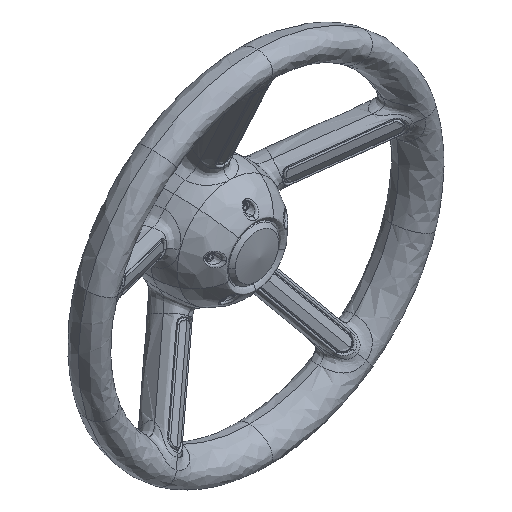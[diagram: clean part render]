
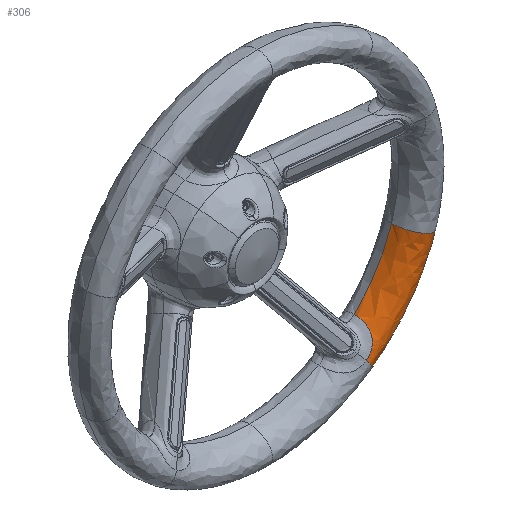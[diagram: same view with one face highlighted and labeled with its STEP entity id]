
A CAD part, isometric view. The second image highlights one B-rep face of the part: STEP entity #306.
In plain terms, the highlighted free-form (B-spline) face has degree [2, 2] with [3, 7] control points.
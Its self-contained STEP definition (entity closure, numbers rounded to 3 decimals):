
#306=ADVANCED_FACE($,(#747),#5556,.T.);
#747=FACE_OUTER_BOUND($,#1189,.T.);
#1189=EDGE_LOOP($,(#2203,#2204,#2205,#2206,#2207));
#2203=ORIENTED_EDGE($,*,*,#4012,.T.);
#2204=ORIENTED_EDGE($,*,*,#3981,.T.);
#2205=ORIENTED_EDGE($,*,*,#4005,.F.);
#2206=ORIENTED_EDGE($,*,*,#4011,.T.);
#2207=ORIENTED_EDGE($,*,*,#3852,.F.);
#3852=EDGE_CURVE($,#4894,#4895,#6378,.T.);
#3981=EDGE_CURVE($,#4973,#4967,#5914,.T.);
#4005=EDGE_CURVE($,#4980,#4967,#6490,.T.);
#4011=EDGE_CURVE($,#4980,#4895,#5922,.T.);
#4012=EDGE_CURVE($,#4894,#4973,#5923,.T.);
#4894=VERTEX_POINT($,#25518);
#4895=VERTEX_POINT($,#25519);
#4967=VERTEX_POINT($,#25591);
#4973=VERTEX_POINT($,#25597);
#4980=VERTEX_POINT($,#25604);
#5556=(
BOUNDED_SURFACE()
B_SPLINE_SURFACE(2,2,((#19467,#19468,#19469,#19470,#19471,#19472,#19473),
(#19474,#19475,#19476,#19477,#19478,#19479,#19480),(#19481,#19482,#19483,
#19484,#19485,#19486,#19487)),.UNSPECIFIED.,.F.,.F.,.F.)
B_SPLINE_SURFACE_WITH_KNOTS((3,3),(3,2,2,3),(0.,1.257),(4.239,
4.712,6.283,7.381),.UNSPECIFIED.)
GEOMETRIC_REPRESENTATION_ITEM()
RATIONAL_B_SPLINE_SURFACE(((0.877,0.912,1.,0.707,
1.,0.795,0.877),(0.834,0.867,
0.951,0.672,0.951,0.756,
0.834),(0.877,0.912,1.,0.707,
1.,0.795,0.877)))
REPRESENTATION_ITEM($)
SURFACE()
);
#5914=(
BOUNDED_CURVE()
B_SPLINE_CURVE(2,(#13610,#13611,#13612,#13613,#13614),.UNSPECIFIED.,.F.,
.F.)
B_SPLINE_CURVE_WITH_KNOTS((3,2,3),(-7.381,-6.283,-5.641),
.UNSPECIFIED.)
CURVE()
GEOMETRIC_REPRESENTATION_ITEM()
RATIONAL_B_SPLINE_CURVE((1.,0.849,1.,0.95,1.))
REPRESENTATION_ITEM($)
);
#5922=(
BOUNDED_CURVE()
B_SPLINE_CURVE(2,(#13919,#13920,#13921),.UNSPECIFIED.,.F.,.F.)
B_SPLINE_CURVE_WITH_KNOTS((3,3),(0.297,1.257),.UNSPECIFIED.)
CURVE()
GEOMETRIC_REPRESENTATION_ITEM()
RATIONAL_B_SPLINE_CURVE((1.,0.971,1.))
REPRESENTATION_ITEM($)
);
#5923=(
BOUNDED_CURVE()
B_SPLINE_CURVE(2,(#13922,#13923,#13924),.UNSPECIFIED.,.F.,.F.)
B_SPLINE_CURVE_WITH_KNOTS((3,3),(-1.257,0.),.UNSPECIFIED.)
CURVE()
GEOMETRIC_REPRESENTATION_ITEM()
RATIONAL_B_SPLINE_CURVE((1.,0.951,1.))
REPRESENTATION_ITEM($)
);
#6378=B_SPLINE_CURVE_WITH_KNOTS($,3,(#12452,#12453,#12454,#12455,#12456,
#12457,#12458,#12459,#12460,#12461,#12462,#12463,#12464,#12465,#12466,#12467,
#12468,#12469),.UNSPECIFIED.,.F.,.F.,(4,1,1,1,1,1,1,1,1,1,1,1,1,1,1,4),(0.,
4.367,8.604,11.66,14.559,17.464,
20.396,23.338,26.275,29.207,32.135,
36.03,39.529,45.36,48.286,52.16),
.UNSPECIFIED.);
#6490=B_SPLINE_CURVE_WITH_KNOTS($,3,(#13813,#13814,#13815,#13816,#13817,
#13818,#13819,#13820,#13821,#13822,#13823,#13824,#13825,#13826,#13827,#13828,
#13829,#13830,#13831,#13832,#13833,#13834,#13835,#13836),.UNSPECIFIED.,.F.,
.F.,(4,2,2,2,2,2,2,2,2,2,2,4),(-35.523,-33.303,-31.083,
-26.642,-22.202,-17.762,-15.541,-13.321,
-8.881,-6.661,-4.44,0.),.UNSPECIFIED.);
#12452=CARTESIAN_POINT($,(166.124,-79.975,-53.977));
#12453=CARTESIAN_POINT($,(166.124,-81.43,-53.977));
#12454=CARTESIAN_POINT($,(165.86,-84.299,-53.891));
#12455=CARTESIAN_POINT($,(164.673,-88.011,-53.505));
#12456=CARTESIAN_POINT($,(162.922,-90.891,-52.937));
#12457=CARTESIAN_POINT($,(160.876,-92.945,-52.272));
#12458=CARTESIAN_POINT($,(158.414,-94.34,-51.472));
#12459=CARTESIAN_POINT($,(155.665,-94.951,-50.579));
#12460=CARTESIAN_POINT($,(152.856,-94.764,-49.666));
#12461=CARTESIAN_POINT($,(150.173,-93.892,-48.794));
#12462=CARTESIAN_POINT($,(147.714,-92.486,-47.995));
#12463=CARTESIAN_POINT($,(145.276,-90.472,-47.203));
#12464=CARTESIAN_POINT($,(143.072,-87.913,-46.487));
#12465=CARTESIAN_POINT($,(140.78,-84.211,-45.742));
#12466=CARTESIAN_POINT($,(139.286,-80.413,-45.257));
#12467=CARTESIAN_POINT($,(138.399,-76.303,-44.969));
#12468=CARTESIAN_POINT($,(138.214,-74.038,-44.908));
#12469=CARTESIAN_POINT($,(138.214,-72.747,-44.908));
#13610=CARTESIAN_POINT($,(102.67,-79.975,-141.314));
#13611=CARTESIAN_POINT($,(102.67,-91.24,-141.314));
#13612=CARTESIAN_POINT($,(97.865,-94.215,-134.7));
#13613=CARTESIAN_POINT($,(95.324,-95.789,-131.202));
#13614=CARTESIAN_POINT($,(92.534,-93.575,-127.362));
#13813=CARTESIAN_POINT($,(101.89,-72.747,-103.626));
#13814=CARTESIAN_POINT($,(101.89,-73.545,-103.625));
#13815=CARTESIAN_POINT($,(101.913,-74.348,-103.664));
#13816=CARTESIAN_POINT($,(101.964,-75.934,-103.844));
#13817=CARTESIAN_POINT($,(101.996,-76.726,-103.984));
#13818=CARTESIAN_POINT($,(102.099,-79.06,-104.547));
#13819=CARTESIAN_POINT($,(102.177,-80.55,-105.109));
#13820=CARTESIAN_POINT($,(102.286,-83.383,-106.591));
#13821=CARTESIAN_POINT($,(102.315,-84.72,-107.516));
#13822=CARTESIAN_POINT($,(102.238,-87.104,-109.636));
#13823=CARTESIAN_POINT($,(102.13,-88.171,-110.847));
#13824=CARTESIAN_POINT($,(101.797,-89.527,-112.786));
#13825=CARTESIAN_POINT($,(101.655,-89.946,-113.463));
#13826=CARTESIAN_POINT($,(101.308,-90.696,-114.829));
#13827=CARTESIAN_POINT($,(101.1,-91.033,-115.526));
#13828=CARTESIAN_POINT($,(100.366,-91.931,-117.624));
#13829=CARTESIAN_POINT($,(99.728,-92.376,-119.03));
#13830=CARTESIAN_POINT($,(98.537,-92.87,-121.05));
#13831=CARTESIAN_POINT($,(98.095,-93.008,-121.718));
#13832=CARTESIAN_POINT($,(97.152,-93.23,-122.988));
#13833=CARTESIAN_POINT($,(96.654,-93.316,-123.592));
#13834=CARTESIAN_POINT($,(95.028,-93.518,-125.363));
#13835=CARTESIAN_POINT($,(93.831,-93.574,-126.419));
#13836=CARTESIAN_POINT($,(92.534,-93.575,-127.362));
#13919=CARTESIAN_POINT($,(101.89,-72.747,-103.626));
#13920=CARTESIAN_POINT($,(127.232,-72.747,-78.709));
#13921=CARTESIAN_POINT($,(138.214,-72.747,-44.908));
#13922=CARTESIAN_POINT($,(166.124,-79.975,-53.977));
#13923=CARTESIAN_POINT($,(148.586,-79.975,-107.954));
#13924=CARTESIAN_POINT($,(102.67,-79.975,-141.314));
#19467=CARTESIAN_POINT($,(85.421,-72.747,-117.572));
#19468=CARTESIAN_POINT($,(85.421,-76.98,-117.572));
#19469=CARTESIAN_POINT($,(86.313,-81.149,-118.8));
#19470=CARTESIAN_POINT($,(90.133,-99.004,-124.057));
#19471=CARTESIAN_POINT($,(97.865,-94.215,-134.7));
#19472=CARTESIAN_POINT($,(102.67,-91.24,-141.314));
#19473=CARTESIAN_POINT($,(102.67,-79.975,-141.314));
#19474=CARTESIAN_POINT($,(123.622,-72.747,-89.817));
#19475=CARTESIAN_POINT($,(123.622,-76.98,-89.817));
#19476=CARTESIAN_POINT($,(124.913,-81.149,-90.755));
#19477=CARTESIAN_POINT($,(130.441,-99.004,-94.771));
#19478=CARTESIAN_POINT($,(141.632,-94.215,-102.902));
#19479=CARTESIAN_POINT($,(148.586,-91.24,-107.954));
#19480=CARTESIAN_POINT($,(148.586,-79.975,-107.954));
#19481=CARTESIAN_POINT($,(138.214,-72.747,-44.908));
#19482=CARTESIAN_POINT($,(138.214,-76.98,-44.908));
#19483=CARTESIAN_POINT($,(139.657,-81.149,-45.377));
#19484=CARTESIAN_POINT($,(145.838,-99.004,-47.385));
#19485=CARTESIAN_POINT($,(158.349,-94.215,-51.451));
#19486=CARTESIAN_POINT($,(166.124,-91.24,-53.977));
#19487=CARTESIAN_POINT($,(166.124,-79.975,-53.977));
#25518=CARTESIAN_POINT($,(166.124,-79.975,-53.977));
#25519=CARTESIAN_POINT($,(138.214,-72.747,-44.908));
#25591=CARTESIAN_POINT($,(92.534,-93.575,-127.362));
#25597=CARTESIAN_POINT($,(102.67,-79.975,-141.314));
#25604=CARTESIAN_POINT($,(101.89,-72.747,-103.626));
